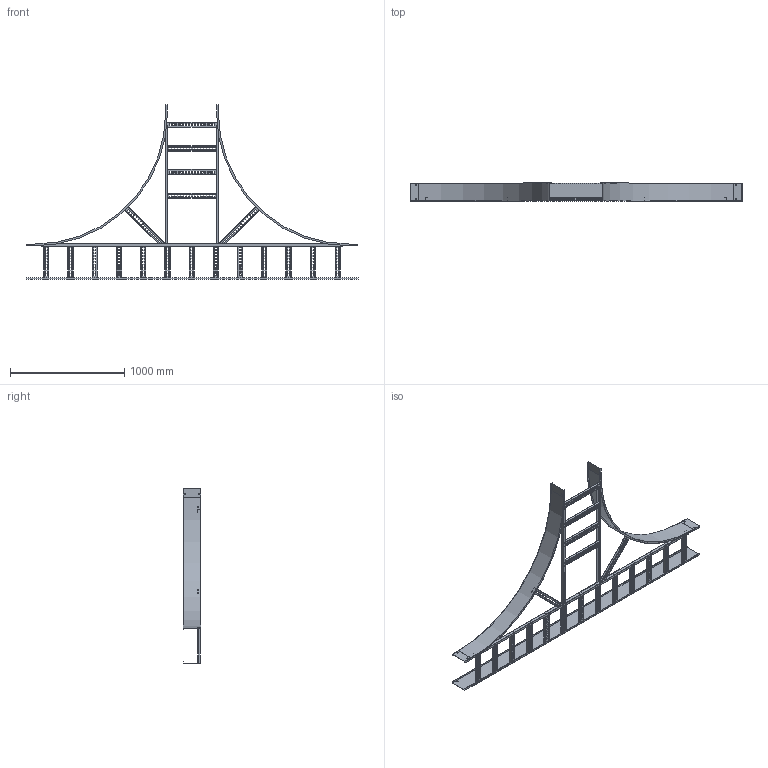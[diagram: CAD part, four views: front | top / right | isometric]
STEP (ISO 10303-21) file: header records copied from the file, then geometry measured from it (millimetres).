
FILE_DESCRIPTION((''),'2;1');
FILE_NAME('AUF61218LET48_ASM','2010-01-28T',('erouzier'),(''),'PRO/ENGINEER BY PARAMETRIC TECHNOLOGY CORPORATION, 2008510','PRO/ENGINEER BY PARAMETRIC TECHNOLOGY CORPORATION, 2008510','');
FILE_SCHEMA(('CONFIG_CONTROL_DESIGN'));
Length unit declared in the file: inch
Products named in the file (21): CDS001321-6-90-45-I; CDS013843-6-114; CDS000495_GEN_AF9; CDS002159L12-P_AF32; CDS002159L12-P_AF33; CDS002159L12-P_AF34; CDS002159L12-P_AF35; CDS002159L12-P; CDS002159L12-P_AF36; CDS002159L12-P_AF37; CDS002159L12-P_AF38; CDS002159L12-P_AF39; CDS000495_GEN_AF10; CDS000495_GEN_AF11; CDS002159L24-P_AF6; CDS002159L24-P_AF7; CDS002159L18-P_AF8; CDS002159L18-P_AF9; CDS002159L18-P_AF10; CDS002159L18-P_AF11; AUF61218LET48_ASM
Assembly tree (25 placements, depth 2):
  AUF61218LET48_ASM
    CDS001321-6-90-45-I  x2
    CDS013843-6-114
    CDS000495_GEN_AF9
    CDS002159L12-P_AF32
    CDS002159L12-P_AF33
    CDS002159L12-P_AF34
    CDS002159L12-P_AF35
    CDS002159L12-P  x5
    CDS002159L12-P_AF36
    CDS002159L12-P_AF37
    CDS002159L12-P_AF38
    CDS002159L12-P_AF39
    CDS000495_GEN_AF10
    CDS000495_GEN_AF11
    CDS002159L24-P_AF6
    CDS002159L24-P_AF7
    CDS002159L18-P_AF8
    CDS002159L18-P_AF9
    CDS002159L18-P_AF10
    CDS002159L18-P_AF11
Bounding box: 2900.68 x 157.23 x 1528.83 mm (x, y, z)
Volume: 4668416.3 mm3; surface area: 4674521.1 mm2
Topology: 25 solids, 25 shells, 2518 faces, 7404 edges, 4936 vertices
Faces by surface type: plane 1391, cylinder 1127
Entity records: 69779 total; most frequent: CARTESIAN_POINT 12266, ORIENTED_EDGE 12024, DIRECTION 11986, EDGE_CURVE 6012, VECTOR 4174, LINE 4174, VERTEX_POINT 4008, AXIS2_PLACEMENT_3D 3906
